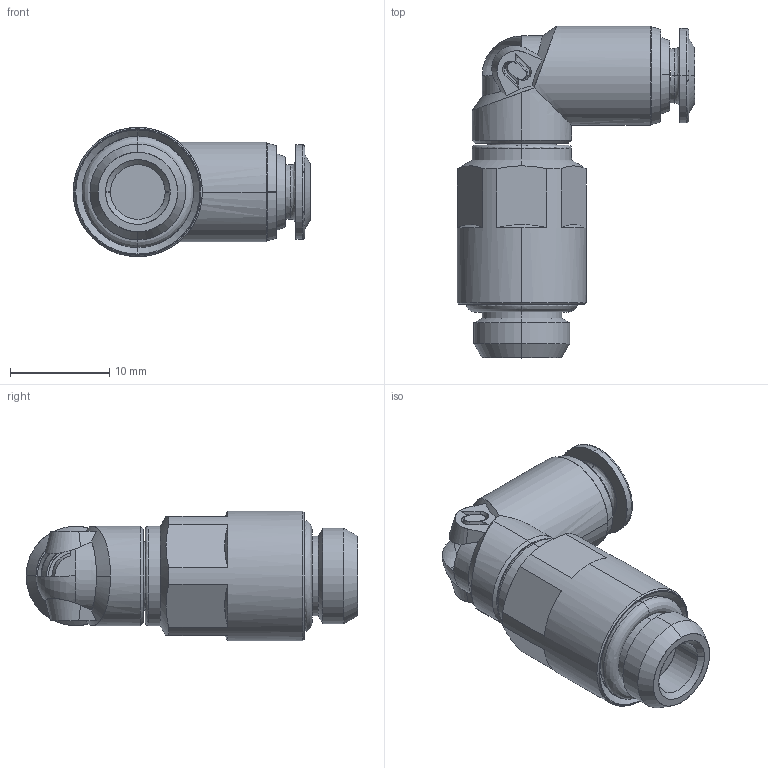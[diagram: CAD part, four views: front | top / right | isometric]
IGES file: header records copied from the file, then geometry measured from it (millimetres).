
Start section: SolidWorks IGES file using analytic representation for surfaces
Global section: file name: K:\Disegni Esecutivi\Serie 57000\ASSIEMI_57000\57126\ASSIEMI_PIENI_57126\5712600001.IGS; native system: SolidWorks 2008; preprocessor: SolidWorks 2008; author: cad02; date: 080207.114438; units: millimetre
Bounding box: 23.9 x 33.4 x 13 mm (x, y, z)
Surface area: 2231.8 mm2 (no closed solid volume)
Topology: 0 solids, 0 shells, 143 faces, 1818 edges, 1816 vertices
Faces by surface type: revolution 72, bspline 71
